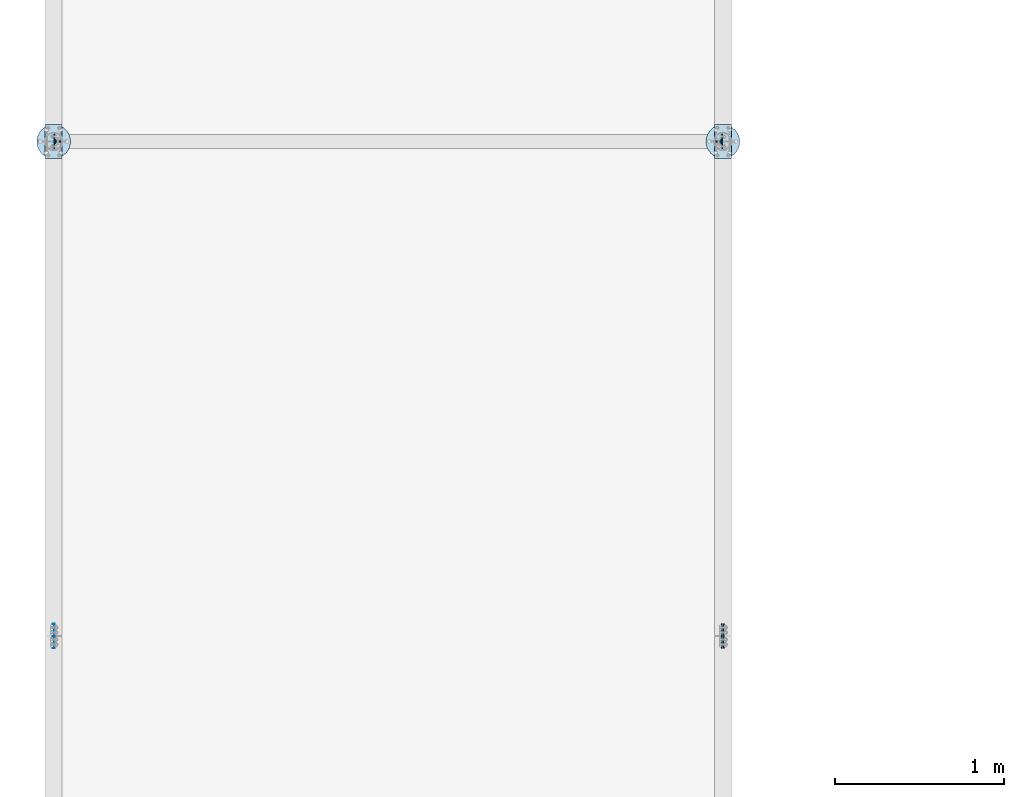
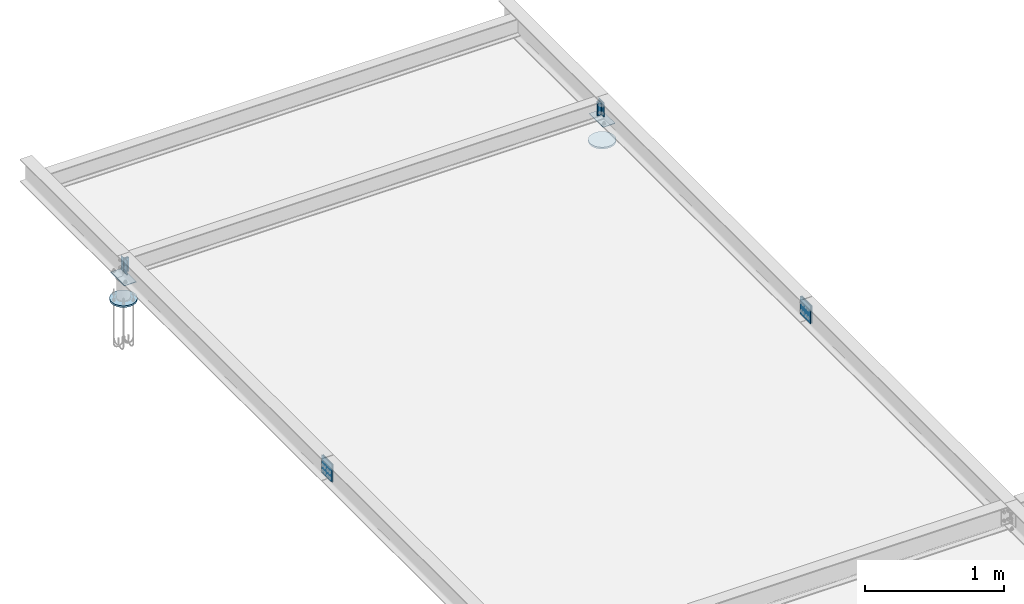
# One storey, part 9 of 84: 12 plates.
"""IFC4 building model written with IfcOpenShell, lengths in metres."""

from ifc_helpers import new_model, si_unit, frame, origin_with_axes, place, context, project, spatial, polyline, outline, extrude, type_object, element, save


model = new_model("IFC4")

# Units and contexts
model_context = context("Model", 3, precision=1e-05, world=origin_with_axes())
ifc_project = project(units=[si_unit("LENGTHUNIT", "METRE"), si_unit("AREAUNIT", "SQUARE_METRE"), si_unit("VOLUMEUNIT", "CUBIC_METRE"), si_unit("MASSUNIT", "GRAM", prefix="KILO"), si_unit("TIMEUNIT", "SECOND"), si_unit("PLANEANGLEUNIT", "RADIAN"), si_unit("SOLIDANGLEUNIT", "STERADIAN"), si_unit("THERMODYNAMICTEMPERATUREUNIT", "DEGREE_CELSIUS")], contexts=[model_context])

# Site, building, storey
placement_1 = place(None, origin_with_axes())
site = spatial("IfcSite", under=ifc_project, at=placement_1, Name="Italia", CompositionType="ELEMENT")
building = spatial("IfcBuilding", under=site, at=placement_1, Name="Tettoia", CompositionType="ELEMENT")
storey_placement = place(None, frame((0.0, 0.0, 4.199999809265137), z_axis=(0.0, 0.0, 1.0), x_axis=(1.0, 0.0, 0.0)))
storey = spatial("IfcBuildingStorey", under=building, at=storey_placement, Name="Storey 1", CompositionType="ELEMENT", Elevation=4.199999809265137)

# Plates
plate_type_1 = type_object("IfcPlateType", Name="Collegamento -014_0114", PredefinedType="SHEET")
placement_2 = place(placement_1, origin_with_axes())
plate_1_placement = place(placement_2, origin_with_axes())
element("IfcPlate", 1, at=plate_1_placement, inside=storey, type_object=plate_type_1, Name="Collegamento -014_0114", context=model_context, shape_type="SweptSolid", body=[
    extrude(outline(polyline([(0.0, 0.0), (-0.00366211, -0.0152582), (-0.00966835, -0.0297556), (-0.0178661, -0.0431351), (-0.0280571, -0.0550672), (-0.0399895, -0.0652583), (-0.0533695, -0.0734572), (-0.0678673, -0.0794622), (-0.0831242, -0.0831254), (-0.0987682, -0.0843565), (-0.114412, -0.0831254), (-0.129669, -0.0794622), (-0.144167, -0.0734572), (-0.157547, -0.0652583), (-0.169479, -0.0550672), (-0.17967, -0.0431351), (-0.187868, -0.0297556), (-0.193874, -0.0152582), (-0.197536, 0.0), (-0.198769, 0.0156434), (-0.197536, 0.0312869), (-0.193874, 0.0465451), (-0.187868, 0.0610425), (-0.17967, 0.074422), (-0.169479, 0.0863541), (-0.157547, 0.0965451), (-0.144167, 0.104744), (-0.129669, 0.110749), (-0.114412, 0.114412), (-0.0987682, 0.115643), (-0.0831242, 0.114412), (-0.0678673, 0.110749), (-0.0533695, 0.104744), (-0.0399895, 0.0965451), (-0.0280571, 0.0863541), (-0.0178661, 0.074422), (-0.00966835, 0.0610425), (-0.00366211, 0.0465451), (0.0, 0.0312869), (0.00123215, 0.0156434), (0.0, 0.0)])), frame((0.115643, 19.9188, 4.0), z_axis=(0.0, 0.0, 1.0), x_axis=(0.0, 1.0, 0.0)), (0.0, 0.0, 1.0), 0.0149999),
])
plate_type_2 = type_object("IfcPlateType", Name="Collegamento -015_0115", PredefinedType="SHEET")
plate_2_placement = place(placement_2, origin_with_axes())
element("IfcPlate", 2, at=plate_2_placement, inside=storey, type_object=plate_type_2, Name="Collegamento -015_0115", context=model_context, shape_type="SweptSolid", body=[
    extrude(outline(polyline([(0.0, 0.0), (-0.00366211, -0.0152583), (-0.00966835, -0.0297556), (-0.0178661, -0.0431347), (-0.0280571, -0.0550671), (-0.0399895, -0.065258), (-0.0533695, -0.0734572), (-0.0678673, -0.0794621), (-0.0831242, -0.0831251), (-0.0987682, -0.0843563), (-0.114412, -0.0831251), (-0.129669, -0.0794621), (-0.144167, -0.0734572), (-0.157547, -0.065258), (-0.169479, -0.0550671), (-0.17967, -0.0431347), (-0.187868, -0.0297556), (-0.193874, -0.0152583), (-0.197536, 0.0), (-0.198769, 0.0156436), (-0.197536, 0.0312872), (-0.193874, 0.0465455), (-0.187868, 0.0610428), (-0.17967, 0.0744219), (-0.169479, 0.0863543), (-0.157547, 0.0965452), (-0.144167, 0.104744), (-0.129669, 0.110749), (-0.114412, 0.114412), (-0.0987682, 0.115644), (-0.0831242, 0.114412), (-0.0678673, 0.110749), (-0.0533695, 0.104744), (-0.0399895, 0.0965452), (-0.0280571, 0.0863543), (-0.0178661, 0.0744219), (-0.00966835, 0.0610428), (-0.00366211, 0.0465455), (0.0, 0.0312872), (0.00123215, 0.0156436), (0.0, 0.0)])), frame((4.08564, 19.9188, 4.0), z_axis=(0.0, 0.0, 1.0), x_axis=(0.0, 1.0, 0.0)), (0.0, 0.0, 1.0), 0.0149999),
])
plate_type_3 = type_object("IfcPlateType", Name="Collegamento 0114_-014", PredefinedType="SHEET")
plate_3_placement = place(placement_2, origin_with_axes())
element("IfcPlate", 3, at=plate_3_placement, inside=storey, type_object=plate_type_3, Name="Collegamento 0114_-014", context=model_context, shape_type="SweptSolid", body=[
    extrude(outline(polyline([(0.0, 0.0), (-0.200001, 0.0), (-0.200001, 0.101), (0.0, 0.101), (0.0, 0.0)])), frame((0.1505, 19.92, 4.195), z_axis=(0.0, 0.0, 1.0), x_axis=(0.0, 1.0, 0.0)), (0.0, 0.0, 1.0), 0.00500011),
])
plate_type_4 = type_object("IfcPlateType", Name="Collegamento 0114_0115", PredefinedType="SHEET")
plate_4_placement = place(placement_2, origin_with_axes())
element("IfcPlate", 4, at=plate_4_placement, inside=storey, type_object=plate_type_4, Name="Collegamento 0114_0115", context=model_context, shape_type="SweptSolid", body=[
    extrude(outline(polyline([(0.0, 0.0), (0.00300026, 0.0), (0.00414658, -0.000228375), (0.00512123, -0.000878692), (0.00577164, -0.00185196), (0.00599861, -0.00300001), (0.00599861, -0.028), (0.00645638, -0.0302961), (0.00775719, -0.0322426), (0.00970268, -0.0335433), (0.0119991, -0.034), (0.0369987, -0.034), (0.038147, -0.0342284), (0.0391216, -0.0348787), (0.039772, -0.035852), (0.039999, -0.037), (0.039999, -0.04), (0.0, -0.04), (0.0, 0.0)])), frame((0.1428, 19.8225, 4.361), z_axis=(0.0, 0.0, -1.0), x_axis=(0.0, 1.0, 0.0)), (0.0, 0.0, 1.0), 0.122),
])
plate_type_5 = type_object("IfcPlateType", Name="Collegamento 0114_0115", PredefinedType="SHEET")
plate_5_placement = place(placement_2, origin_with_axes())
element("IfcPlate", 5, at=plate_5_placement, inside=storey, type_object=plate_type_5, Name="Collegamento 0114_0115", context=model_context, shape_type="SweptSolid", body=[
    extrude(outline(polyline([(0.0, 0.0), (0.000226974, 0.00114805), (0.00087738, 0.00212132), (0.00185204, 0.00277164), (0.00300026, 0.003), (0.0279999, 0.003), (0.0302963, 0.00345673), (0.0322418, 0.00475736), (0.0335426, 0.0067039), (0.0340004, 0.009), (0.0340004, 0.034), (0.0342274, 0.035148), (0.0348778, 0.0361213), (0.0358524, 0.0367716), (0.0369987, 0.037), (0.039999, 0.037), (0.039999, -0.003), (0.0, -0.003), (0.0, 0.0)])), frame((0.1058, 19.7775, 4.361), z_axis=(0.0, 0.0, -1.0), x_axis=(0.0, 1.0, 0.0)), (0.0, 0.0, 1.0), 0.122),
])
plate_type_6 = type_object("IfcPlateType", Name="Collegamento 0115_-015", PredefinedType="SHEET")
plate_6_placement = place(placement_2, origin_with_axes())
element("IfcPlate", 6, at=plate_6_placement, inside=storey, type_object=plate_type_6, Name="Collegamento 0115_-015", context=model_context, shape_type="SweptSolid", body=[
    extrude(outline(polyline([(0.0, 0.0), (-0.200001, 0.0), (-0.200001, 0.101), (0.0, 0.101), (0.0, 0.0)])), frame((4.1205, 19.92, 4.195), z_axis=(0.0, 0.0, 1.0), x_axis=(0.0, 1.0, 0.0)), (0.0, 0.0, 1.0), 0.00500011),
])
plate_type_7 = type_object("IfcPlateType", Name="Collegamento 0115_0114", PredefinedType="SHEET")
plate_7_placement = place(placement_2, origin_with_axes())
element("IfcPlate", 7, at=plate_7_placement, inside=storey, type_object=plate_type_7, Name="Collegamento 0115_0114", context=model_context, shape_type="SweptSolid", body=[
    extrude(outline(polyline([(0.0, 0.0), (-0.00300026, 0.0), (-0.00414658, 0.000228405), (-0.00512123, 0.000878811), (-0.00577164, 0.00185204), (-0.00599861, 0.00299978), (-0.00599861, 0.0279999), (-0.00645638, 0.0302958), (-0.00775719, 0.0322428), (-0.00970268, 0.0335431), (-0.0119991, 0.0339999), (-0.0369987, 0.0339999), (-0.038147, 0.0342283), (-0.0391216, 0.0348787), (-0.039772, 0.035852), (-0.039999, 0.0370002), (-0.039999, 0.04), (0.0, 0.04), (0.0, 0.0)])), frame((4.0272, 19.8175, 4.361), z_axis=(0.0, 0.0, -1.0), x_axis=(0.0, 1.0, 0.0)), (0.0, 0.0, 1.0), 0.122),
])
plate_type_8 = type_object("IfcPlateType", Name="Collegamento 0115_0114", PredefinedType="SHEET")
plate_8_placement = place(placement_2, origin_with_axes())
element("IfcPlate", 8, at=plate_8_placement, inside=storey, type_object=plate_type_8, Name="Collegamento 0115_0114", context=model_context, shape_type="SweptSolid", body=[
    extrude(outline(polyline([(0.0, 0.0), (-0.000226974, -0.00114822), (-0.00087738, -0.00212145), (-0.00185204, -0.00277185), (-0.00300026, -0.00300026), (-0.0279999, -0.00300026), (-0.0302963, -0.00345707), (-0.0322418, -0.0047574), (-0.0335426, -0.00670433), (-0.0340004, -0.0090003), (-0.0340004, -0.0340004), (-0.0342274, -0.0351481), (-0.0348778, -0.0361214), (-0.0358524, -0.0367718), (-0.0369987, -0.0370002), (-0.039999, -0.0370002), (-0.039999, 0.00299978), (0.0, 0.00299978), (0.0, 0.0)])), frame((4.0642, 19.8625, 4.361), z_axis=(0.0, 0.0, -1.0), x_axis=(0.0, 1.0, 0.0)), (0.0, 0.0, 1.0), 0.122),
])
plate_type_9 = type_object("IfcPlateType", Name="Collegamento 0122_0114", PredefinedType="SHEET")
plate_9_placement = place(placement_2, origin_with_axes())
element("IfcPlate", 9, at=plate_9_placement, inside=storey, type_object=plate_type_9, Name="Collegamento 0122_0114", context=model_context, shape_type="SweptSolid", body=[
    extrude(outline(polyline([(0.0, 0.0), (-0.146, 0.0), (-0.146, -0.156), (0.0, -0.156), (0.0, 0.0)])), frame((0.0972, 16.814, 4.378), z_axis=(-1.0, 0.0, 0.0), x_axis=(0.0, -1.0, 0.0)), (0.0, 0.0, 1.0), 0.004),
])
plate_type_10 = type_object("IfcPlateType", Name="Collegamento 0122_0114", PredefinedType="SHEET")
plate_10_placement = place(placement_2, origin_with_axes())
element("IfcPlate", 10, at=plate_10_placement, inside=storey, type_object=plate_type_10, Name="Collegamento 0122_0114", context=model_context, shape_type="SweptSolid", body=[
    extrude(outline(polyline([(0.0, 0.0), (-0.146, 0.0), (-0.146, -0.156), (0.0, -0.156), (0.0, 0.0)])), frame((0.1068, 16.814, 4.378), z_axis=(-1.0, 0.0, 0.0), x_axis=(0.0, -1.0, 0.0)), (0.0, 0.0, 1.0), 0.004),
])
plate_type_11 = type_object("IfcPlateType", Name="Collegamento 0123_0115", PredefinedType="SHEET")
plate_11_placement = place(placement_2, origin_with_axes())
element("IfcPlate", 11, at=plate_11_placement, inside=storey, type_object=plate_type_11, Name="Collegamento 0123_0115", context=model_context, shape_type="SweptSolid", body=[
    extrude(outline(polyline([(0.0, 0.0), (-0.146, 0.0), (-0.146, -0.156), (0.0, -0.156), (0.0, 0.0)])), frame((4.0672, 16.814, 4.378), z_axis=(-1.0, 0.0, 0.0), x_axis=(0.0, -1.0, 0.0)), (0.0, 0.0, 1.0), 0.00600004),
])
plate_type_12 = type_object("IfcPlateType", Name="Collegamento 0123_0115", PredefinedType="SHEET")
plate_12_placement = place(placement_2, origin_with_axes())
element("IfcPlate", 12, at=plate_12_placement, inside=storey, type_object=plate_type_12, Name="Collegamento 0123_0115", context=model_context, shape_type="SweptSolid", body=[
    extrude(outline(polyline([(0.0, 0.0), (-0.146, 0.0), (-0.146, -0.156), (0.0, -0.156), (0.0, 0.0)])), frame((4.0788, 16.814, 4.378), z_axis=(-1.0, 0.0, 0.0), x_axis=(0.0, -1.0, 0.0)), (0.0, 0.0, 1.0), 0.00600004),
])

save(model, "model.ifc")
